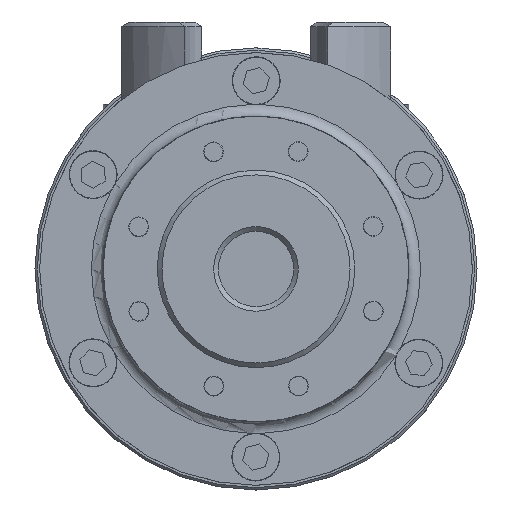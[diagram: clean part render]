
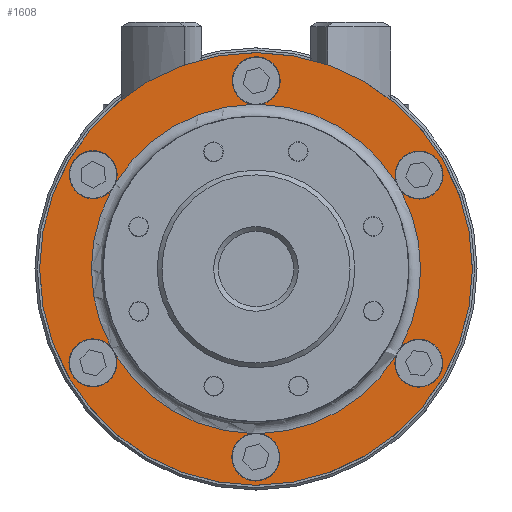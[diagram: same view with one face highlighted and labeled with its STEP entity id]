
A CAD part, left-side view. The second image highlights one B-rep face of the part: STEP entity #1608.
In plain terms, the highlighted planar face has unit normal (-1, 0, 0).
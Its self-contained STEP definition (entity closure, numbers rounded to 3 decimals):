
#1608 = ADVANCED_FACE( '', ( #3230, #3231 ), #3232, .F. );
#3230 = FACE_OUTER_BOUND( '', #4608, .T. );
#3231 = FACE_BOUND( '', #4609, .T. );
#3232 = PLANE( '', #4610 );
#4608 = EDGE_LOOP( '', ( #7034 ) );
#4609 = EDGE_LOOP( '', ( #7035, #7036, #7037, #7038, #7039, #7040, #7041, #7042, #7043, #7044, #7045, #7046 ) );
#4610 = AXIS2_PLACEMENT_3D( '', #7047, #7048, #7049 );
#7034 = ORIENTED_EDGE( '', *, *, #9006, .T. );
#7035 = ORIENTED_EDGE( '', *, *, #9012, .T. );
#7036 = ORIENTED_EDGE( '', *, *, #8974, .T. );
#7037 = ORIENTED_EDGE( '', *, *, #9018, .T. );
#7038 = ORIENTED_EDGE( '', *, *, #9019, .T. );
#7039 = ORIENTED_EDGE( '', *, *, #9017, .T. );
#7040 = ORIENTED_EDGE( '', *, *, #8982, .T. );
#7041 = ORIENTED_EDGE( '', *, *, #9015, .T. );
#7042 = ORIENTED_EDGE( '', *, *, #8959, .T. );
#7043 = ORIENTED_EDGE( '', *, *, #9014, .T. );
#7044 = ORIENTED_EDGE( '', *, *, #8943, .T. );
#7045 = ORIENTED_EDGE( '', *, *, #9013, .T. );
#7046 = ORIENTED_EDGE( '', *, *, #8988, .T. );
#7047 = CARTESIAN_POINT( '', ( -22., 46., 0. ) );
#7048 = DIRECTION( '', ( 1., 0., 0. ) );
#7049 = DIRECTION( '', ( 0., 1., 0. ) );
#8943 = EDGE_CURVE( '', #10253, #10252, #10260, .T. );
#8959 = EDGE_CURVE( '', #10285, #10284, #10287, .T. );
#8974 = EDGE_CURVE( '', #10162, #10161, #10311, .T. );
#8982 = EDGE_CURVE( '', #10323, #10322, #10325, .T. );
#8988 = EDGE_CURVE( '', #10334, #10333, #10336, .T. );
#9006 = EDGE_CURVE( '', #10365, #10365, #10366, .F. );
#9012 = EDGE_CURVE( '', #10333, #10162, #10375, .T. );
#9013 = EDGE_CURVE( '', #10252, #10334, #10376, .T. );
#9014 = EDGE_CURVE( '', #10284, #10253, #10377, .T. );
#9015 = EDGE_CURVE( '', #10322, #10285, #10378, .T. );
#9017 = EDGE_CURVE( '', #10303, #10323, #10380, .T. );
#9018 = EDGE_CURVE( '', #10161, #10304, #10381, .T. );
#9019 = EDGE_CURVE( '', #10304, #10303, #10382, .T. );
#10161 = VERTEX_POINT( '', #11805 );
#10162 = VERTEX_POINT( '', #11806 );
#10252 = VERTEX_POINT( '', #11926 );
#10253 = VERTEX_POINT( '', #11927 );
#10260 = CIRCLE( '', #11934, 5.1 );
#10284 = VERTEX_POINT( '', #11979 );
#10285 = VERTEX_POINT( '', #11980 );
#10287 = CIRCLE( '', #11982, 5.1 );
#10303 = VERTEX_POINT( '', #12001 );
#10304 = VERTEX_POINT( '', #12002 );
#10311 = CIRCLE( '', #12009, 5.1 );
#10322 = VERTEX_POINT( '', #12022 );
#10323 = VERTEX_POINT( '', #12023 );
#10325 = CIRCLE( '', #12025, 5.1 );
#10333 = VERTEX_POINT( '', #12033 );
#10334 = VERTEX_POINT( '', #12034 );
#10336 = CIRCLE( '', #12036, 5.1 );
#10365 = VERTEX_POINT( '', #12073 );
#10366 = CIRCLE( '', #12074, 46. );
#10375 = CIRCLE( '', #12083, 35. );
#10376 = CIRCLE( '', #12084, 35. );
#10377 = CIRCLE( '', #12085, 35. );
#10378 = CIRCLE( '', #12086, 35. );
#10380 = CIRCLE( '', #12088, 35. );
#10381 = CIRCLE( '', #12089, 35. );
#10382 = CIRCLE( '', #12090, 5.1 );
#11805 = CARTESIAN_POINT( '', ( -22., 29.83, 18.308 ) );
#11806 = CARTESIAN_POINT( '', ( -22., 30.77, 16.68 ) );
#11926 = CARTESIAN_POINT( '', ( -22., 0.94, -34.987 ) );
#11927 = CARTESIAN_POINT( '', ( -22., -0.94, -34.987 ) );
#11934 = AXIS2_PLACEMENT_3D( '', #13499, #13500, #13501 );
#11979 = CARTESIAN_POINT( '', ( -22., -29.83, -18.308 ) );
#11980 = CARTESIAN_POINT( '', ( -22., -30.77, -16.68 ) );
#11982 = AXIS2_PLACEMENT_3D( '', #13526, #13527, #13528 );
#12001 = CARTESIAN_POINT( '', ( -22., -0.94, 34.987 ) );
#12002 = CARTESIAN_POINT( '', ( -22., 0.94, 34.987 ) );
#12009 = AXIS2_PLACEMENT_3D( '', #13568, #13569, #13570 );
#12022 = CARTESIAN_POINT( '', ( -22., -30.77, 16.68 ) );
#12023 = CARTESIAN_POINT( '', ( -22., -29.83, 18.308 ) );
#12025 = AXIS2_PLACEMENT_3D( '', #13588, #13589, #13590 );
#12033 = CARTESIAN_POINT( '', ( -22., 30.77, -16.68 ) );
#12034 = CARTESIAN_POINT( '', ( -22., 29.83, -18.308 ) );
#12036 = AXIS2_PLACEMENT_3D( '', #13606, #13607, #13608 );
#12073 = CARTESIAN_POINT( '', ( -22., 0., -46. ) );
#12074 = AXIS2_PLACEMENT_3D( '', #13650, #13651, #13652 );
#12083 = AXIS2_PLACEMENT_3D( '', #13668, #13669, #13670 );
#12084 = AXIS2_PLACEMENT_3D( '', #13671, #13672, #13673 );
#12085 = AXIS2_PLACEMENT_3D( '', #13674, #13675, #13676 );
#12086 = AXIS2_PLACEMENT_3D( '', #13677, #13678, #13679 );
#12088 = AXIS2_PLACEMENT_3D( '', #13683, #13684, #13685 );
#12089 = AXIS2_PLACEMENT_3D( '', #13686, #13687, #13688 );
#12090 = AXIS2_PLACEMENT_3D( '', #13689, #13690, #13691 );
#13499 = CARTESIAN_POINT( '', ( -22., 0., -40. ) );
#13500 = DIRECTION( '', ( 1., 0., 0. ) );
#13501 = DIRECTION( '', ( 0., 0., -1. ) );
#13526 = CARTESIAN_POINT( '', ( -22., -34.641, -20. ) );
#13527 = DIRECTION( '', ( 1., 0., 0. ) );
#13528 = DIRECTION( '', ( 0., 0., -1. ) );
#13568 = CARTESIAN_POINT( '', ( -22., 34.641, 20. ) );
#13569 = DIRECTION( '', ( 1., 0., 0. ) );
#13570 = DIRECTION( '', ( 0., 0., -1. ) );
#13588 = CARTESIAN_POINT( '', ( -22., -34.641, 20. ) );
#13589 = DIRECTION( '', ( 1., 0., 0. ) );
#13590 = DIRECTION( '', ( 0., 0., -1. ) );
#13606 = CARTESIAN_POINT( '', ( -22., 34.641, -20. ) );
#13607 = DIRECTION( '', ( 1., 0., 0. ) );
#13608 = DIRECTION( '', ( 0., 0., -1. ) );
#13650 = CARTESIAN_POINT( '', ( -22., 0., 0. ) );
#13651 = DIRECTION( '', ( 1., 0., 0. ) );
#13652 = DIRECTION( '', ( 0., 0., -1. ) );
#13668 = CARTESIAN_POINT( '', ( -22., 0., 0. ) );
#13669 = DIRECTION( '', ( 1., 0., 0. ) );
#13670 = DIRECTION( '', ( 0., 0., -1. ) );
#13671 = CARTESIAN_POINT( '', ( -22., 0., 0. ) );
#13672 = DIRECTION( '', ( 1., 0., 0. ) );
#13673 = DIRECTION( '', ( 0., 0., -1. ) );
#13674 = CARTESIAN_POINT( '', ( -22., 0., 0. ) );
#13675 = DIRECTION( '', ( 1., 0., 0. ) );
#13676 = DIRECTION( '', ( 0., 0., -1. ) );
#13677 = CARTESIAN_POINT( '', ( -22., 0., 0. ) );
#13678 = DIRECTION( '', ( 1., 0., 0. ) );
#13679 = DIRECTION( '', ( 0., 0., -1. ) );
#13683 = CARTESIAN_POINT( '', ( -22., 0., 0. ) );
#13684 = DIRECTION( '', ( 1., 0., 0. ) );
#13685 = DIRECTION( '', ( 0., 0., -1. ) );
#13686 = CARTESIAN_POINT( '', ( -22., 0., 0. ) );
#13687 = DIRECTION( '', ( 1., 0., 0. ) );
#13688 = DIRECTION( '', ( 0., 0., -1. ) );
#13689 = CARTESIAN_POINT( '', ( -22., 0., 40. ) );
#13690 = DIRECTION( '', ( 1., 0., 0. ) );
#13691 = DIRECTION( '', ( 0., 0., -1. ) );
